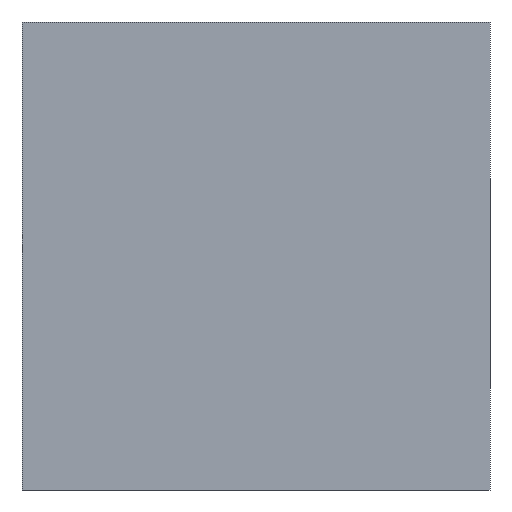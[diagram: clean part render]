
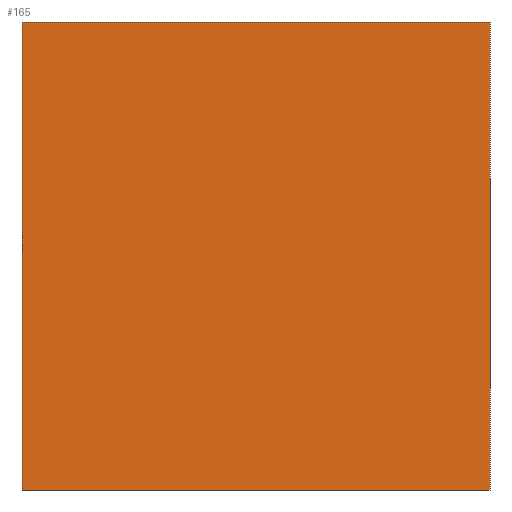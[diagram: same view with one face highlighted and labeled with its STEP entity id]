
A CAD part, front view. The second image highlights one B-rep face of the part: STEP entity #165.
In plain terms, the highlighted planar face has unit normal (0, -1, 0).
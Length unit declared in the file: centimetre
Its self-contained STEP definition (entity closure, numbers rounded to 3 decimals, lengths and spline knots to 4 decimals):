
#11 = ORIENTED_EDGE ( 'NONE', *, *, #26, .T. ) ;
#15 = CARTESIAN_POINT ( 'NONE',  ( 0., 0., 0. ) ) ;
#26 = EDGE_CURVE ( 'NONE', #236, #566, #612, .T. ) ;
#42 = VERTEX_POINT ( 'NONE', #90 ) ;
#57 = LINE ( 'NONE', #276, #492 ) ;
#90 = CARTESIAN_POINT ( 'NONE',  ( 1000., 0., 0. ) ) ;
#103 = CARTESIAN_POINT ( 'NONE',  ( 0., 0., 1000. ) ) ;
#108 = CARTESIAN_POINT ( 'NONE',  ( 1000., 0., 1000. ) ) ;
#136 = EDGE_CURVE ( 'NONE', #347, #42, #57, .T. ) ;
#165 = ADVANCED_FACE ( 'NONE', ( #524 ), #218, .F. ) ;
#203 = DIRECTION ( 'NONE',  ( 0., 0., -1. ) ) ;
#218 = PLANE ( 'NONE',  #288 ) ;
#236 = VERTEX_POINT ( 'NONE', #450 ) ;
#260 = EDGE_CURVE ( 'NONE', #566, #42, #396, .T. ) ;
#276 = CARTESIAN_POINT ( 'NONE',  ( 1000., 0., 1000. ) ) ;
#288 = AXIS2_PLACEMENT_3D ( 'NONE', #103, #471, #675 ) ;
#299 = VECTOR ( 'NONE', #546, 100. ) ;
#304 = VECTOR ( 'NONE', #203, 100. ) ;
#347 = VERTEX_POINT ( 'NONE', #108 ) ;
#361 = EDGE_CURVE ( 'NONE', #236, #347, #472, .T. ) ;
#377 = CARTESIAN_POINT ( 'NONE',  ( 0., 0., 1000. ) ) ;
#396 = LINE ( 'NONE', #645, #299 ) ;
#430 = DIRECTION ( 'NONE',  ( 0., 0., -1. ) ) ;
#436 = DIRECTION ( 'NONE',  ( 1., 0., 0. ) ) ;
#450 = CARTESIAN_POINT ( 'NONE',  ( 0., 0., 1000. ) ) ;
#466 = CARTESIAN_POINT ( 'NONE',  ( 0., 0., 1000. ) ) ;
#469 = EDGE_LOOP ( 'NONE', ( #608, #604, #507, #11 ) ) ;
#471 = DIRECTION ( 'NONE',  ( 0., 1., 0. ) ) ;
#472 = LINE ( 'NONE', #377, #540 ) ;
#492 = VECTOR ( 'NONE', #430, 100. ) ;
#507 = ORIENTED_EDGE ( 'NONE', *, *, #361, .F. ) ;
#524 = FACE_OUTER_BOUND ( 'NONE', #469, .T. ) ;
#540 = VECTOR ( 'NONE', #436, 100. ) ;
#546 = DIRECTION ( 'NONE',  ( 1., 0., 0. ) ) ;
#566 = VERTEX_POINT ( 'NONE', #15 ) ;
#604 = ORIENTED_EDGE ( 'NONE', *, *, #136, .F. ) ;
#608 = ORIENTED_EDGE ( 'NONE', *, *, #260, .T. ) ;
#612 = LINE ( 'NONE', #466, #304 ) ;
#645 = CARTESIAN_POINT ( 'NONE',  ( 0., 0., 0. ) ) ;
#675 = DIRECTION ( 'NONE',  ( 0., 0., 1. ) ) ;
